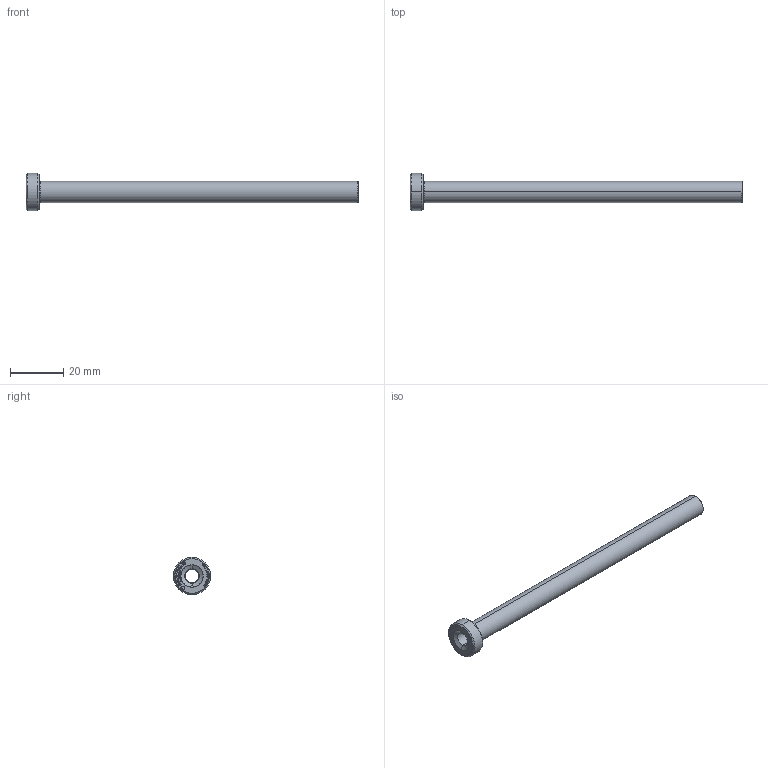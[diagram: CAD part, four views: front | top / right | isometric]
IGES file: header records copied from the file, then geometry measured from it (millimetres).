
Start section: SolidWorks IGES file using analytic representation for surfaces
Global section: file name: D:\TRIVECTOR\2026\08_Agosto\BE - BUCHA EXTRATORA (CATÁLOGO)\BE05,008125.IGS; native system: SolidWorks 2024; preprocessor: SolidWorks 2024; author: Usuario; date: 260824.170202; units: millimetre
Bounding box: 125 x 14 x 14 mm (x, y, z)
Surface area: 5547 mm2 (no closed solid volume)
Topology: 0 solids, 0 shells, 448 faces, 4436 edges, 4436 vertices
Faces by surface type: bspline 423, revolution 25
